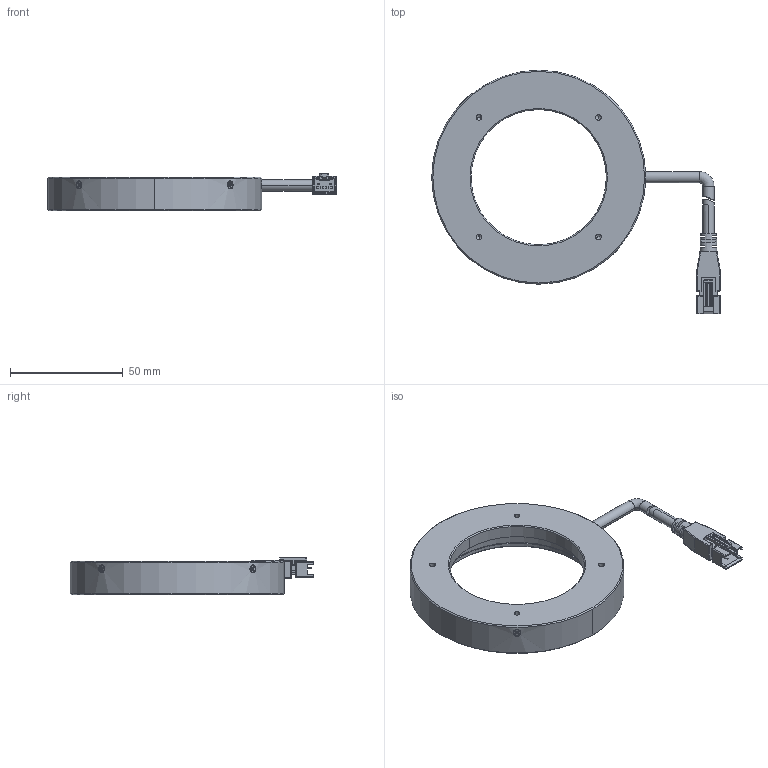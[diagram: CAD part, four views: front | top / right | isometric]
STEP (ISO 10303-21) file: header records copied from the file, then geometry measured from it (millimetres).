
FILE_DESCRIPTION((''),'2;1');
FILE_NAME('MV-LRDS-95-00-X','2023-09-15T16:39:07',('qiaoxuan5'),(''),'CREO PARAMETRIC BY PTC INC, 2020044','CREO PARAMETRIC BY PTC INC, 2020044','');
FILE_SCHEMA(('CONFIG_CONTROL_DESIGN'));
Length unit declared in the file: millimetre
Products named in the file (1): MV-LRDS-95-00-X
Bounding box: 128.11 x 108.16 x 16.7 mm (x, y, z)
Volume: 55069.6 mm3; surface area: 24502.7 mm2
Topology: 2 solids, 6 shells, 471 faces, 1198 edges, 737 vertices
Faces by surface type: plane 257, cylinder 133, cone 53, torus 10, sphere 8, bspline 8, extrusion 2
Entity records: 15383 total; most frequent: CARTESIAN_POINT 4075, ORIENTED_EDGE 2348, DIRECTION 2332, EDGE_CURVE 1174, AXIS2_PLACEMENT_3D 795, VECTOR 742, LINE 740, VERTEX_POINT 737
